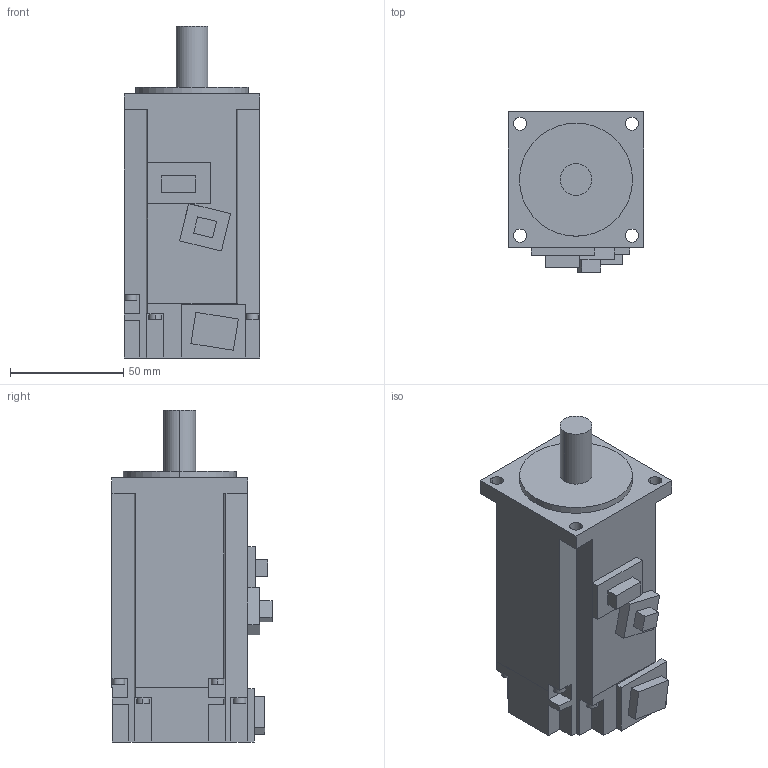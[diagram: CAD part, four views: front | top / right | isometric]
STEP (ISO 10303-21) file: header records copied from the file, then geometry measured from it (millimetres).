
FILE_DESCRIPTION((''),'2;1');
FILE_NAME('HF-KN23B_B-IF0001','2010-04-03T',('DD65885'),(''),'PRO/ENGINEER BY PARAMETRIC TECHNOLOGY CORPORATION, 2007390','PRO/ENGINEER BY PARAMETRIC TECHNOLOGY CORPORATION, 2007390','');
FILE_SCHEMA(('CONFIG_CONTROL_DESIGN'));
Length unit declared in the file: millimetre
Products named in the file (1): HF-KN23B_B-IF0001
Bounding box: 60 x 70.8 x 146.8 mm (x, y, z)
Volume: 384613.5 mm3; surface area: 39202.3 mm2
Topology: 1 solids, 1 shells, 128 faces, 338 edges, 224 vertices
Faces by surface type: plane 102, cylinder 26
Entity records: 3976 total; most frequent: CARTESIAN_POINT 690, ORIENTED_EDGE 676, DIRECTION 646, EDGE_CURVE 338, VECTOR 286, LINE 286, VERTEX_POINT 224, AXIS2_PLACEMENT_3D 180
